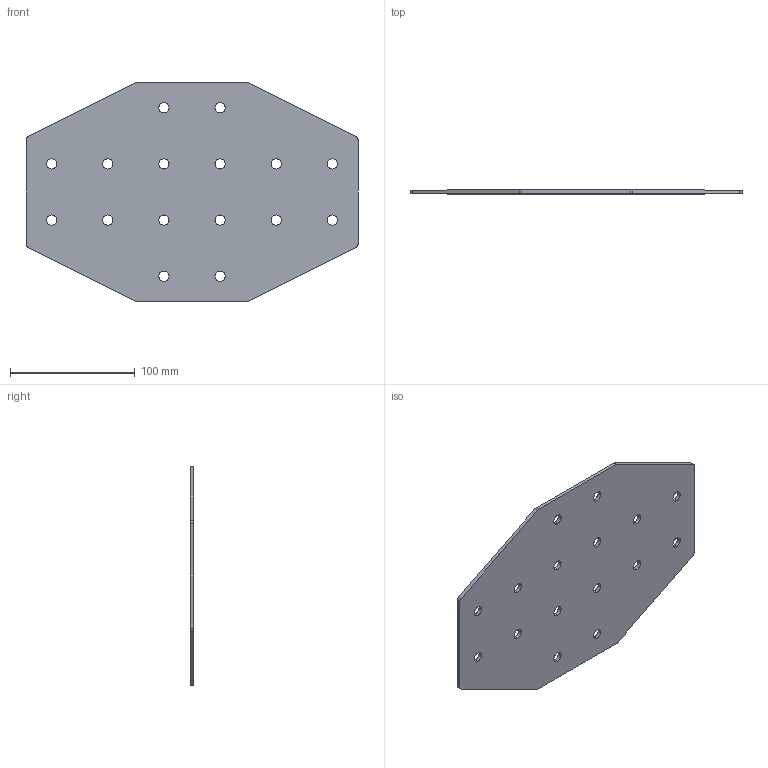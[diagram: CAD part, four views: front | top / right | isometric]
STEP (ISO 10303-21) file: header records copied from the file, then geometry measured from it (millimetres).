
FILE_DESCRIPTION (( 'STEP AP203' ), '1' );
FILE_NAME ('ﾕ-16-ﾓ-45.STEP', '2016-07-23T10:09:12', ( '' ), ( '' ), 'SwSTEP 2.0', 'SolidWorks 2014', '' );
FILE_SCHEMA (( 'CONFIG_CONTROL_DESIGN' ));
Length unit declared in the file: millimetre
Products named in the file (1): ﾕ-16-ﾓ-45
Bounding box: 266 x 3 x 176 mm (x, y, z)
Surface area: 79760.6 mm2 (no closed solid volume)
Topology: 0 solids, 1 shells, 50 faces, 144 edges, 96 vertices
Faces by surface type: cylinder 40, plane 10
Entity records: 1829 total; most frequent: DIRECTION 326, CARTESIAN_POINT 291, ORIENTED_EDGE 288, EDGE_CURVE 144, AXIS2_PLACEMENT_3D 131, VERTEX_POINT 96, EDGE_LOOP 82, CIRCLE 80
